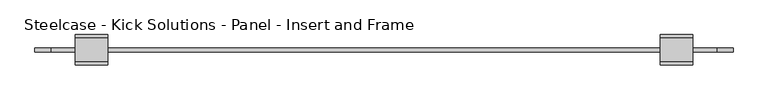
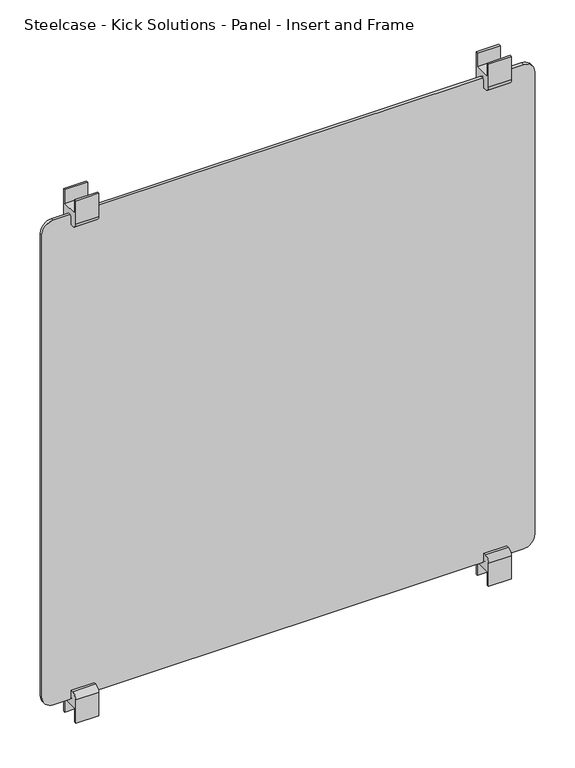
"""IFC4 building model written with IfcOpenShell, lengths in millimetres: furniture geometry, Steelcase - Kick Solutions - Panel - Insert and Frame : Laminate - 54H x 48W."""

import ifcopenshell
import ifcopenshell.guid

model = None  # the IFC model being written
_history = None  # IfcOwnerHistory: only IFC2X3 demands one
_inside = {}  # id of a spatial element -> (the spatial element, [elements in it])
_under = {}  # id of a project, library or spatial element -> (it, [spatial elements below it])
_declared = {}  # id of a project -> (the project, [libraries it declares])
_typed = {}  # id of a type object -> (the type object, [elements of that type])
_made_of = {}  # id of a material, layer set ... -> (it, [elements and type objects made of it])


def new_model(schema):
    """Start an empty IFC model of exactly this schema.

    Asked for "IFC4X3", IfcOpenShell would pick the latest addendum, in which some entities
    have other attributes; the version numbers below select the first issue.
    IFC2X3 requires an IfcOwnerHistory on every rooted entity: one is made here for all.
    """
    global model, _history
    if schema == "IFC4X3":
        model = ifcopenshell.file(schema_version=(4, 3, 0, 0))
    else:
        model = ifcopenshell.file(schema=schema)
    _inside.clear()
    _under.clear()
    _declared.clear()
    _typed.clear()
    _made_of.clear()
    _history = None
    if model.schema == "IFC2X3":
        org = make("IfcOrganization", Name="unknown")
        user = make(
            "IfcPersonAndOrganization",
            ThePerson=make("IfcPerson", FamilyName="unknown"),
            TheOrganization=org,
        )
        app = make(
            "IfcApplication",
            ApplicationDeveloper=org,
            Version="unknown",
            ApplicationFullName="unknown",
            ApplicationIdentifier="unknown",
        )
        _history = make(
            "IfcOwnerHistory",
            OwningUser=user,
            OwningApplication=app,
            ChangeAction="ADDED",
            CreationDate=0,
        )
    return model


def make(cls, **values):
    """One entity of the class cls with the attributes given. An attribute that is None is left unset."""
    return model.create_entity(
        cls, **{name: value for name, value in values.items() if value is not None}
    )


def rooted(cls, **values):
    """An entity with a GlobalId (a new one), such as an element, a storey or a relation."""
    return make(cls, GlobalId=ifcopenshell.guid.new(), OwnerHistory=_history, **values)


def si_unit(unit_type, name, prefix=None):
    """IfcSIUnit, for example si_unit("LENGTHUNIT", "METRE", prefix="MILLI")."""
    return make("IfcSIUnit", UnitType=unit_type, Prefix=prefix, Name=name)


def assignment(units):
    """IfcUnitAssignment: the units of a project."""
    return None if units is None else make("IfcUnitAssignment", Units=units)


def point(xyz):
    """IfcCartesianPoint."""
    return None if xyz is None else make("IfcCartesianPoint", Coordinates=xyz)


def direction(xyz):
    """IfcDirection."""
    return None if xyz is None else make("IfcDirection", DirectionRatios=xyz)


def frame(location, z_axis=None, x_axis=None):
    """IfcAxis2Placement3D, a coordinate frame: its origin and axes. An axis left out is left unset."""
    return make(
        "IfcAxis2Placement3D",
        Location=point(location),
        Axis=direction(z_axis),
        RefDirection=direction(x_axis),
    )


def frame_2d(location, x_axis=None):
    """IfcAxis2Placement2D, a coordinate frame in the plane: its origin and x axis."""
    return make(
        "IfcAxis2Placement2D", Location=point(location), RefDirection=direction(x_axis)
    )


def origin():
    """The frame at (0, 0, 0) with its axes left unset."""
    return frame((0.0, 0.0, 0.0))


def place(relative_to, where):
    """IfcLocalPlacement: puts the frame where relative to a parent placement (None: the world)."""
    return make(
        "IfcLocalPlacement", PlacementRelTo=relative_to, RelativePlacement=where
    )


def context(
    kind, dimensions, precision=None, world=None, true_north=None, identifier=None
):
    """IfcGeometricRepresentationContext, for example the 3D "Model" context."""
    return make(
        "IfcGeometricRepresentationContext",
        ContextIdentifier=identifier,
        ContextType=kind,
        CoordinateSpaceDimension=dimensions,
        Precision=precision,
        WorldCoordinateSystem=world,
        TrueNorth=true_north,
    )


def project(units=None, contexts=None):
    """IfcProject with its units and contexts."""
    return rooted(
        "IfcProject",
        Name="project",
        RepresentationContexts=contexts,
        UnitsInContext=assignment(units),
    )


def spatial(cls, under=None, at=None, **own):
    """A site, building, storey or space (cls), placed at a placement, below another one or the project."""
    s = rooted(cls, ObjectPlacement=at, **own)
    if under is not None:
        _under.setdefault(under.id(), (under, []))[1].append(s)
    return s


def polyline(points):
    """IfcPolyline through the points."""
    return make("IfcPolyline", Points=[point(p) for p in points])


def circle_curve(where, radius):
    """IfcCircle in the frame where."""
    return make("IfcCircle", Position=where, Radius=radius)


def trimmed(basis, trim1, trim2, sense, master):
    """IfcTrimmedCurve: the piece of a basis curve between two trims."""
    return make(
        "IfcTrimmedCurve",
        BasisCurve=basis,
        Trim1=trim1,
        Trim2=trim2,
        SenseAgreement=sense,
        MasterRepresentation=master,
    )


def segment(curve, same_sense, transition):
    """IfcCompositeCurveSegment."""
    return make(
        "IfcCompositeCurveSegment",
        Transition=transition,
        SameSense=same_sense,
        ParentCurve=curve,
    )


def composite_curve(segments, self_intersect=None):
    """IfcCompositeCurve: segments joined end to end."""
    return make("IfcCompositeCurve", Segments=segments, SelfIntersect=self_intersect)


def outline(outer, holes=None, kind="AREA"):
    """IfcArbitraryClosedProfileDef: a profile drawn as a closed curve; with holes, ...WithVoids."""
    if holes is None:
        return make("IfcArbitraryClosedProfileDef", ProfileType=kind, OuterCurve=outer)
    return make(
        "IfcArbitraryProfileDefWithVoids",
        ProfileType=kind,
        OuterCurve=outer,
        InnerCurves=holes,
    )


def extrude(swept, where, along, depth):
    """IfcExtrudedAreaSolid: the profile swept, set in the frame where, extruded along a direction by depth."""
    return make(
        "IfcExtrudedAreaSolid",
        SweptArea=swept,
        Position=where,
        ExtrudedDirection=direction(along),
        Depth=depth,
    )


def shape(context_of_items, identifier, shape_type, items):
    """IfcShapeRepresentation: the items that make up one representation, for example the "Body"."""
    return make(
        "IfcShapeRepresentation",
        ContextOfItems=context_of_items,
        RepresentationIdentifier=identifier,
        RepresentationType=shape_type,
        Items=items,
    )


def source(mapping_origin, context_of_items, identifier, shape_type, items):
    """IfcRepresentationMap: a shape defined once, which mapped items show again and again."""
    return make(
        "IfcRepresentationMap",
        MappingOrigin=mapping_origin,
        MappedRepresentation=shape(context_of_items, identifier, shape_type, items),
    )


def transform(
    local_origin,
    x_axis=None,
    y_axis=None,
    z_axis=None,
    scale=None,
    scale2=None,
    scale3=None,
    uniform=True,
):
    """IfcCartesianTransformationOperator3D, or its non-uniform kind. x_axis, y_axis, z_axis: its Axis1, 2, 3."""
    if uniform:
        return make(
            "IfcCartesianTransformationOperator3D",
            Axis1=direction(x_axis),
            Axis2=direction(y_axis),
            LocalOrigin=point(local_origin),
            Scale=scale,
            Axis3=direction(z_axis),
        )
    return make(
        "IfcCartesianTransformationOperator3DnonUniform",
        Axis1=direction(x_axis),
        Axis2=direction(y_axis),
        LocalOrigin=point(local_origin),
        Scale=scale,
        Axis3=direction(z_axis),
        Scale2=scale2,
        Scale3=scale3,
    )


def mapped(mapping_source, mapping_target):
    """IfcMappedItem: shows the shape of a source again, moved by a transform."""
    return make(
        "IfcMappedItem", MappingSource=mapping_source, MappingTarget=mapping_target
    )


def made_of(thing, what):
    """Note that an element or type object is made of a material, layer set ...; save() writes the relation."""
    if what is not None:
        _made_of.setdefault(what.id(), (what, []))[1].append(thing)
    return thing


def element(
    cls,
    number,
    at=None,
    inside=None,
    cuts=None,
    type_object=None,
    material=None,
    context=None,
    identifier="Body",
    shape_type=None,
    held_by="IfcProductDefinitionShape",
    body=None,
    shapes=None,
    **own,
):
    """One element of the class cls, such as IfcWall. Its Tag is "e" and its number.

    at: its placement. inside: the storey or other place that contains it. cuts: it is an
    opening in that element (IfcRelVoidsElement). A single representation is given by context,
    identifier, shape_type and body (its items); several are given by shapes. held_by: the class
    of the entity that holds the representations. save() writes the other relations.
    """
    e = rooted(cls, Tag="e%d" % number, ObjectPlacement=at, **own)
    if body is not None:
        shapes = [shape(context, identifier, shape_type, body)]
    if shapes is not None:
        e.Representation = make(held_by, Representations=shapes)
    if inside is not None:
        _inside.setdefault(inside.id(), (inside, []))[1].append(e)
    if cuts is not None:
        rooted(
            "IfcRelVoidsElement", RelatingBuildingElement=cuts, RelatedOpeningElement=e
        )
    if type_object is not None:
        _typed.setdefault(type_object.id(), (type_object, []))[1].append(e)
    return made_of(e, material)


def aggregate(whole, parts):
    """IfcRelAggregates: a whole, such as a stair, and the parts it consists of."""
    return rooted("IfcRelAggregates", RelatingObject=whole, RelatedObjects=parts)


def save(model, path):
    """Write the relations noted so far, then the file.

    IfcRelAggregates (storeys below a building ...), IfcRelContainedInSpatialStructure (elements
    in a storey), IfcRelDefinesByType, IfcRelAssociatesMaterial and IfcRelDeclares: one each for
    every whole, place, type object, material and project.
    """
    for whole, parts in _under.values():
        aggregate(whole, parts)
    for where, things in _inside.values():
        rooted(
            "IfcRelContainedInSpatialStructure",
            RelatedElements=things,
            RelatingStructure=where,
        )
    for kind, things in _typed.values():
        rooted("IfcRelDefinesByType", RelatedObjects=things, RelatingType=kind)
    for what, things in _made_of.values():
        rooted("IfcRelAssociatesMaterial", RelatedObjects=things, RelatingMaterial=what)
    for by, libraries in _declared.values():
        rooted("IfcRelDeclares", RelatingContext=by, RelatedDefinitions=libraries)
    model.write(path)


def steelcase_kick_solutions_panel_insert_and_frame_3909a45d(model_context):
    return source(origin(), model_context, "Body", "SweptSolid", [
        extrude(outline(composite_curve([segment(polyline([(5.3821989, 1346.2), (10.144699, 1346.2), (10.144699, 1291.513221)]), True, "CONTINUOUS"), segment(trimmed(circle_curve(frame_2d((-1.6831687, 1291.513221)), 11.8278677), [point((10.144699, 1291.513221))], [point((-1.6831687, 1279.6853533))], False, "CARTESIAN"), True, "CONTINUOUS"), segment(polyline([(-1.6831687, 1279.6853533), (-7.3178012, 1279.6853533), (-7.3178012, 1295.0857521)]), True, "CONTINUOUS"), segment(trimmed(circle_curve(frame_2d((-13.667801, 1295.0857521)), 6.3499998), [point((-7.3178012, 1295.0857521))], [point((-20.0178007, 1295.0857521))], True, "CARTESIAN"), True, "CONTINUOUS"), segment(polyline([(-20.0178007, 1295.0857521), (-20.0178007, 1279.6853527), (-25.2074988, 1279.6853527)]), True, "CONTINUOUS"), segment(trimmed(circle_curve(frame_2d((-25.2074988, 1291.9581549)), 12.2728022), [point((-25.2074988, 1279.6853527))], [point((-37.480301, 1291.9581549))], False, "CARTESIAN"), True, "CONTINUOUS"), segment(polyline([(-37.480301, 1291.9581549), (-37.480301, 1346.2), (-32.7177988, 1346.2), (-32.7177988, 1314.4499758), (5.3821989, 1314.4499758), (5.3821989, 1346.2)]), True, "CONTINUOUS")], self_intersect=False)), frame((1042.3148583, 0.0, 0.0), z_axis=(1.0, 0.0, 0.0), x_axis=(0.0, 1.0, 0.0)), (0.0, 0.0, 1.0), 50.8),
        extrude(outline(composite_curve([segment(polyline([(5.3821989, 120.6499576), (5.3821989, 152.3999815), (-32.7177988, 152.3999815), (-32.7177988, 120.6499576), (-37.480301, 120.6499576), (-37.480301, 174.8918024)]), True, "CONTINUOUS"), segment(trimmed(circle_curve(frame_2d((-25.2074988, 174.8918024)), 12.2728022), [point((-37.480301, 174.8918024))], [point((-25.2074988, 187.1646046))], False, "CARTESIAN"), True, "CONTINUOUS"), segment(polyline([(-25.2074988, 187.1646046), (-20.0178007, 187.1646046), (-20.0178007, 171.7642058)]), True, "CONTINUOUS"), segment(trimmed(circle_curve(frame_2d((-13.667801, 171.7642058)), 6.3499998), [point((-20.0178007, 171.7642058))], [point((-7.3178012, 171.7642058))], True, "CARTESIAN"), True, "CONTINUOUS"), segment(polyline([(-7.3178012, 171.7642058), (-7.3178012, 187.1646046), (-1.6831687, 187.1646046)]), True, "CONTINUOUS"), segment(trimmed(circle_curve(frame_2d((-1.6831687, 175.3367369)), 11.8278677), [point((-1.6831687, 187.1646046))], [point((10.144699, 175.3367369))], False, "CARTESIAN"), True, "CONTINUOUS"), segment(polyline([(10.144699, 175.3367369), (10.144699, 120.6499576), (5.3821989, 120.6499576)]), True, "CONTINUOUS")], self_intersect=False)), frame((1042.3148583, 0.0, 0.0), z_axis=(1.0, 0.0, 0.0), x_axis=(0.0, 1.0, 0.0)), (0.0, 0.0, 1.0), 50.8),
        extrude(outline(composite_curve([segment(polyline([(5.3821989, 1346.2), (10.144699, 1346.2), (10.144699, 1291.5132204)]), True, "CONTINUOUS"), segment(trimmed(circle_curve(frame_2d((-1.6831684, 1291.5132204)), 11.8278674), [point((10.144699, 1291.5132204))], [point((-1.6831684, 1279.685353))], False, "CARTESIAN"), True, "CONTINUOUS"), segment(polyline([(-1.6831684, 1279.685353), (-7.3178009, 1279.685353), (-7.3178009, 1295.0857521)]), True, "CONTINUOUS"), segment(trimmed(circle_curve(frame_2d((-13.667801, 1295.0857521)), 6.3500001), [point((-7.3178009, 1295.0857521))], [point((-20.017801, 1295.0857521))], True, "CARTESIAN"), True, "CONTINUOUS"), segment(polyline([(-20.017801, 1295.0857521), (-20.017801, 1279.685353), (-25.2074991, 1279.685353)]), True, "CONTINUOUS"), segment(trimmed(circle_curve(frame_2d((-25.2074991, 1291.9581549)), 12.2728019), [point((-25.2074991, 1279.685353))], [point((-37.480301, 1291.9581549))], False, "CARTESIAN"), True, "CONTINUOUS"), segment(polyline([(-37.480301, 1291.9581549), (-37.480301, 1346.2), (-32.7177988, 1346.2), (-32.7177988, 1314.4499758), (5.3821989, 1314.4499758), (5.3821989, 1346.2)]), True, "CONTINUOUS")], self_intersect=False)), frame((126.0851417, 0.0, 0.0), z_axis=(1.0, 0.0, 0.0), x_axis=(0.0, 1.0, 0.0)), (0.0, 0.0, 1.0), 50.8),
        extrude(outline(composite_curve([segment(polyline([(5.3821989, 120.6499576), (5.3821989, 152.3999818), (-32.7177988, 152.3999818), (-32.7177988, 120.6499576), (-37.480301, 120.6499576), (-37.480301, 174.8918027)]), True, "CONTINUOUS"), segment(trimmed(circle_curve(frame_2d((-25.2074991, 174.8918027)), 12.2728019), [point((-37.480301, 174.8918027))], [point((-25.2074991, 187.1646046))], False, "CARTESIAN"), True, "CONTINUOUS"), segment(polyline([(-25.2074991, 187.1646046), (-20.017801, 187.1646046), (-20.017801, 171.7642055)]), True, "CONTINUOUS"), segment(trimmed(circle_curve(frame_2d((-13.667801, 171.7642055)), 6.3500001), [point((-20.017801, 171.7642055))], [point((-7.3178009, 171.7642055))], True, "CARTESIAN"), True, "CONTINUOUS"), segment(polyline([(-7.3178009, 171.7642055), (-7.3178009, 187.1646041), (-1.6831684, 187.1646041)]), True, "CONTINUOUS"), segment(trimmed(circle_curve(frame_2d((-1.6831684, 175.3367366)), 11.8278674), [point((-1.6831684, 187.1646041))], [point((10.144699, 175.3367366))], False, "CARTESIAN"), True, "CONTINUOUS"), segment(polyline([(10.144699, 175.3367366), (10.144699, 120.6499576), (5.3821989, 120.6499576)]), True, "CONTINUOUS")], self_intersect=False)), frame((126.0851417, 0.0, 0.0), z_axis=(1.0, 0.0, 0.0), x_axis=(0.0, 1.0, 0.0)), (0.0, 0.0, 1.0), 50.8),
        extrude(outline(composite_curve([segment(polyline([(1301.7499516, 1131.2148583), (1301.7499516, 87.9851417)]), True, "CONTINUOUS"), segment(trimmed(circle_curve(frame_2d((1276.3499516, 87.9851417)), 25.4), [point((1301.7499516, 87.9851417))], [point((1276.3499516, 62.5851417))], False, "CARTESIAN"), True, "CONTINUOUS"), segment(polyline([(1276.3499516, 62.5851417), (190.5000061, 62.5851417)]), True, "CONTINUOUS"), segment(trimmed(circle_curve(frame_2d((190.5000061, 87.9851417)), 25.4), [point((190.5000061, 62.5851417))], [point((165.1000061, 87.9851417))], False, "CARTESIAN"), True, "CONTINUOUS"), segment(polyline([(165.1000061, 87.9851417), (165.1000061, 1131.2148583)]), True, "CONTINUOUS"), segment(trimmed(circle_curve(frame_2d((190.5000061, 1131.2148583)), 25.4), [point((165.1000061, 1131.2148583))], [point((190.5000061, 1156.6148583))], False, "CARTESIAN"), True, "CONTINUOUS"), segment(polyline([(190.5000061, 1156.6148583), (1276.3499516, 1156.6148583)]), True, "CONTINUOUS"), segment(trimmed(circle_curve(frame_2d((1276.3499516, 1131.2148583)), 25.4), [point((1276.3499516, 1156.6148583))], [point((1301.7499516, 1131.2148583))], False, "CARTESIAN"), True, "CONTINUOUS")], self_intersect=False)), frame((0.0, -16.8428004, 0.0), z_axis=(0.0, 1.0, 0.0), x_axis=(0.0, 0.0, 1.0)), (0.0, 0.0, 1.0), 6.3499985),
    ])


if __name__ == "__main__":
    model = new_model("IFC4")
    model_context = context("Model", 3, world=origin())
    ifc_project = project(units=[si_unit("LENGTHUNIT", "METRE", prefix="MILLI")], contexts=[model_context])
    site = spatial("IfcSite", under=ifc_project)
    building = spatial("IfcBuilding", under=site)
    placement = place(None, origin())
    steelcase_kick_solutions_panel_insert_and_frame_shape = steelcase_kick_solutions_panel_insert_and_frame_3909a45d(model_context)
    element("IfcFurniture", 1, ObjectType="Steelcase - Kick Solutions - Panel - Insert and Frame : Laminate - 54H x 48W", at=placement, inside=building, context=model_context, shape_type="MappedRepresentation", body=[
        mapped(steelcase_kick_solutions_panel_insert_and_frame_shape, transform((0.0, 0.0, 0.0), x_axis=(1.0, 0.0, 0.0), y_axis=(0.0, 1.0, 0.0), z_axis=(0.0, 0.0, 1.0))),
    ])
    save(model, "model.ifc")
